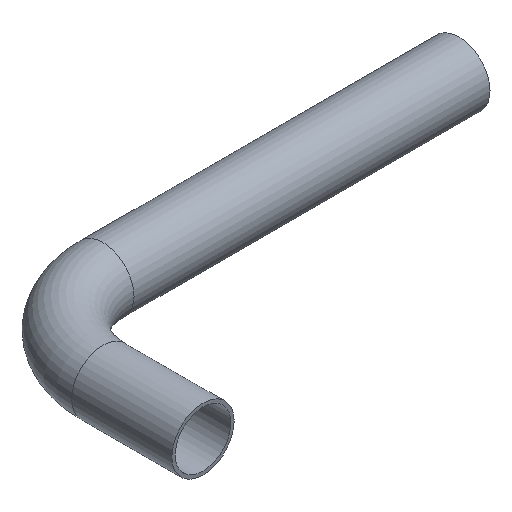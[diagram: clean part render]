
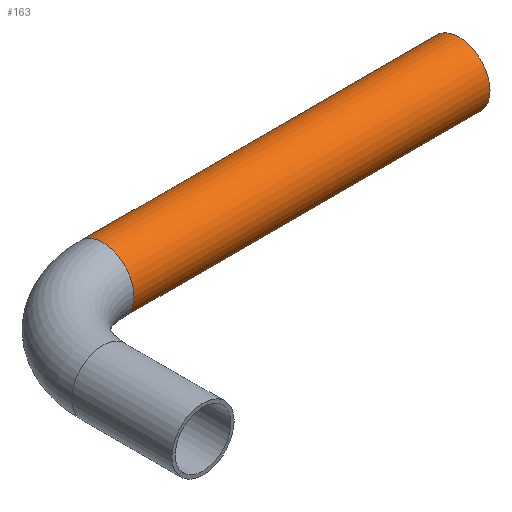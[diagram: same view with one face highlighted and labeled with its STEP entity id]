
A CAD part, isometric view. The second image highlights one B-rep face of the part: STEP entity #163.
In plain terms, the highlighted cylindrical face has radius 14 mm (diameter 28 mm), a full revolution.
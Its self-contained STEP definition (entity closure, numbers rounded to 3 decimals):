
#136=CARTESIAN_POINT('',(0.,40.0,0.0));
#137=DIRECTION('',(1.0,0.,0.0));
#138=DIRECTION('',(0.0,-1.0,0.0));
#139=AXIS2_PLACEMENT_3D('',#136,#137,#138);
#140=CYLINDRICAL_SURFACE('',#139,14.);
#141=CARTESIAN_POINT('',(160.0,54.,0.));
#142=VERTEX_POINT('',#141);
#143=CARTESIAN_POINT('',(160.0,40.,0.0));
#144=DIRECTION('',(-1.0,0.0,0.0));
#145=DIRECTION('',(0.0,-1.0,0.0));
#146=AXIS2_PLACEMENT_3D('',#143,#144,#145);
#147=CIRCLE('',#146,14.);
#148=EDGE_CURVE('',#142,#142,#147,.T.);
#149=ORIENTED_EDGE('',*,*,#148,.T.);
#150=EDGE_LOOP('',(#149));
#151=FACE_OUTER_BOUND('',#150,.T.);
#152=CARTESIAN_POINT('',(0.,54.0,0.));
#153=VERTEX_POINT('',#152);
#154=CARTESIAN_POINT('',(0.,40.0,0.0));
#155=DIRECTION('',(-1.0,0.0,0.0));
#156=DIRECTION('',(0.0,-1.0,0.0));
#157=AXIS2_PLACEMENT_3D('',#154,#155,#156);
#158=CIRCLE('',#157,14.);
#159=EDGE_CURVE('',#153,#153,#158,.T.);
#160=ORIENTED_EDGE('',*,*,#159,.F.);
#161=EDGE_LOOP('',(#160));
#162=FACE_BOUND('',#161,.T.);
#163=ADVANCED_FACE('',(#151,#162),#140,.T.);
